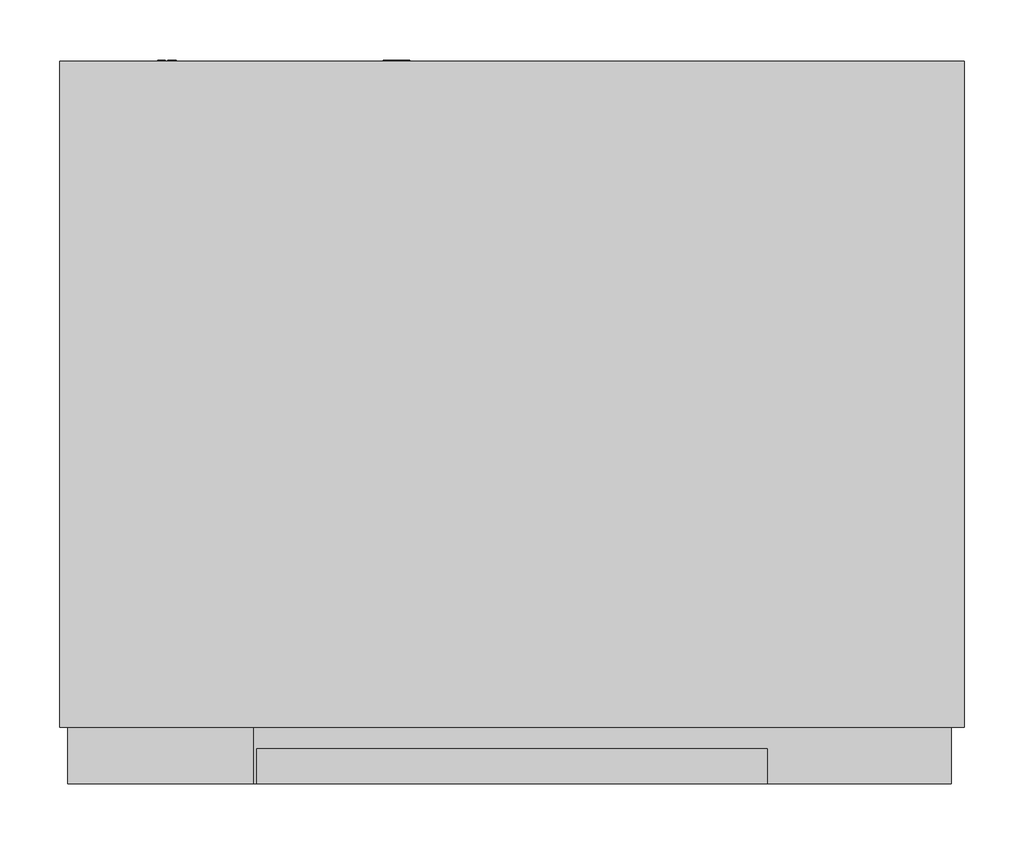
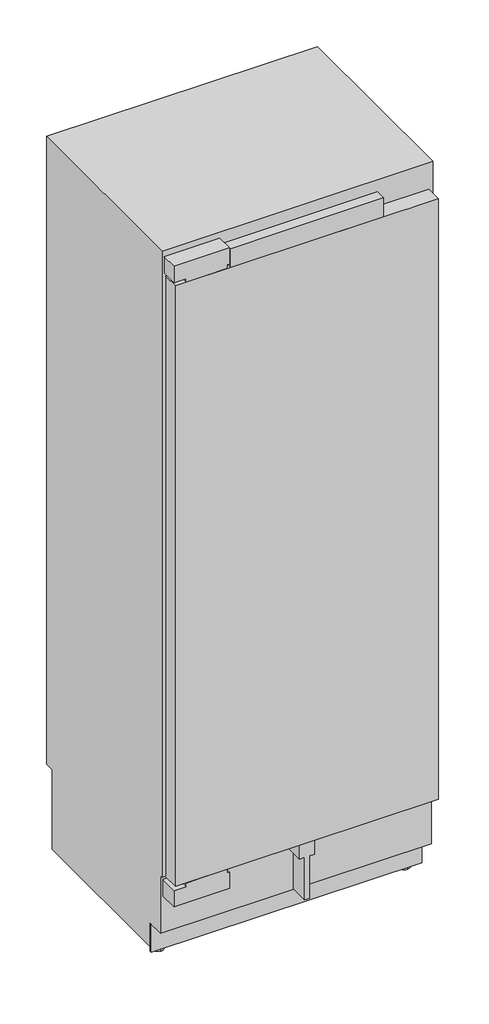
# Not in any storey: 1 proxy.
"""IFC4 building model written with IfcOpenShell, lengths in millimetres."""

import ifcopenshell
import ifcopenshell.guid

model = None  # the IFC model being written
_history = None  # IfcOwnerHistory: only IFC2X3 demands one
_inside = {}  # id of a spatial element -> (the spatial element, [elements in it])
_under = {}  # id of a project, library or spatial element -> (it, [spatial elements below it])
_declared = {}  # id of a project -> (the project, [libraries it declares])
_typed = {}  # id of a type object -> (the type object, [elements of that type])
_made_of = {}  # id of a material, layer set ... -> (it, [elements and type objects made of it])


def new_model(schema):
    """Start an empty IFC model of exactly this schema.

    Asked for "IFC4X3", IfcOpenShell would pick the latest addendum, in which some entities
    have other attributes; the version numbers below select the first issue.
    IFC2X3 requires an IfcOwnerHistory on every rooted entity: one is made here for all.
    """
    global model, _history
    if schema == "IFC4X3":
        model = ifcopenshell.file(schema_version=(4, 3, 0, 0))
    else:
        model = ifcopenshell.file(schema=schema)
    _inside.clear()
    _under.clear()
    _declared.clear()
    _typed.clear()
    _made_of.clear()
    _history = None
    if model.schema == "IFC2X3":
        org = make("IfcOrganization", Name="unknown")
        user = make(
            "IfcPersonAndOrganization",
            ThePerson=make("IfcPerson", FamilyName="unknown"),
            TheOrganization=org,
        )
        app = make(
            "IfcApplication",
            ApplicationDeveloper=org,
            Version="unknown",
            ApplicationFullName="unknown",
            ApplicationIdentifier="unknown",
        )
        _history = make(
            "IfcOwnerHistory",
            OwningUser=user,
            OwningApplication=app,
            ChangeAction="ADDED",
            CreationDate=0,
        )
    return model


def make(cls, **values):
    """One entity of the class cls with the attributes given. An attribute that is None is left unset."""
    return model.create_entity(
        cls, **{name: value for name, value in values.items() if value is not None}
    )


def rooted(cls, **values):
    """An entity with a GlobalId (a new one), such as an element, a storey or a relation."""
    return make(cls, GlobalId=ifcopenshell.guid.new(), OwnerHistory=_history, **values)


def si_unit(unit_type, name, prefix=None):
    """IfcSIUnit, for example si_unit("LENGTHUNIT", "METRE", prefix="MILLI")."""
    return make("IfcSIUnit", UnitType=unit_type, Prefix=prefix, Name=name)


def assignment(units):
    """IfcUnitAssignment: the units of a project."""
    return None if units is None else make("IfcUnitAssignment", Units=units)


def point(xyz):
    """IfcCartesianPoint."""
    return None if xyz is None else make("IfcCartesianPoint", Coordinates=xyz)


def direction(xyz):
    """IfcDirection."""
    return None if xyz is None else make("IfcDirection", DirectionRatios=xyz)


def frame(location, z_axis=None, x_axis=None):
    """IfcAxis2Placement3D, a coordinate frame: its origin and axes. An axis left out is left unset."""
    return make(
        "IfcAxis2Placement3D",
        Location=point(location),
        Axis=direction(z_axis),
        RefDirection=direction(x_axis),
    )


def frame_2d(location, x_axis=None):
    """IfcAxis2Placement2D, a coordinate frame in the plane: its origin and x axis."""
    return make(
        "IfcAxis2Placement2D", Location=point(location), RefDirection=direction(x_axis)
    )


def origin():
    """The frame at (0, 0, 0) with its axes left unset."""
    return frame((0.0, 0.0, 0.0))


def place(relative_to, where):
    """IfcLocalPlacement: puts the frame where relative to a parent placement (None: the world)."""
    return make(
        "IfcLocalPlacement", PlacementRelTo=relative_to, RelativePlacement=where
    )


def context(
    kind, dimensions, precision=None, world=None, true_north=None, identifier=None
):
    """IfcGeometricRepresentationContext, for example the 3D "Model" context."""
    return make(
        "IfcGeometricRepresentationContext",
        ContextIdentifier=identifier,
        ContextType=kind,
        CoordinateSpaceDimension=dimensions,
        Precision=precision,
        WorldCoordinateSystem=world,
        TrueNorth=true_north,
    )


def project(units=None, contexts=None):
    """IfcProject with its units and contexts."""
    return rooted(
        "IfcProject",
        Name="project",
        RepresentationContexts=contexts,
        UnitsInContext=assignment(units),
    )


def spatial(cls, under=None, at=None, **own):
    """A site, building, storey or space (cls), placed at a placement, below another one or the project."""
    s = rooted(cls, ObjectPlacement=at, **own)
    if under is not None:
        _under.setdefault(under.id(), (under, []))[1].append(s)
    return s


def polyline(points):
    """IfcPolyline through the points."""
    return make("IfcPolyline", Points=[point(p) for p in points])


def circle_curve(where, radius):
    """IfcCircle in the frame where."""
    return make("IfcCircle", Position=where, Radius=radius)


def trimmed(basis, trim1, trim2, sense, master):
    """IfcTrimmedCurve: the piece of a basis curve between two trims."""
    return make(
        "IfcTrimmedCurve",
        BasisCurve=basis,
        Trim1=trim1,
        Trim2=trim2,
        SenseAgreement=sense,
        MasterRepresentation=master,
    )


def segment(curve, same_sense, transition):
    """IfcCompositeCurveSegment."""
    return make(
        "IfcCompositeCurveSegment",
        Transition=transition,
        SameSense=same_sense,
        ParentCurve=curve,
    )


def composite_curve(segments, self_intersect=None):
    """IfcCompositeCurve: segments joined end to end."""
    return make("IfcCompositeCurve", Segments=segments, SelfIntersect=self_intersect)


def outline(outer, holes=None, kind="AREA"):
    """IfcArbitraryClosedProfileDef: a profile drawn as a closed curve; with holes, ...WithVoids."""
    if holes is None:
        return make("IfcArbitraryClosedProfileDef", ProfileType=kind, OuterCurve=outer)
    return make(
        "IfcArbitraryProfileDefWithVoids",
        ProfileType=kind,
        OuterCurve=outer,
        InnerCurves=holes,
    )


def extrude(swept, where, along, depth):
    """IfcExtrudedAreaSolid: the profile swept, set in the frame where, extruded along a direction by depth."""
    return make(
        "IfcExtrudedAreaSolid",
        SweptArea=swept,
        Position=where,
        ExtrudedDirection=direction(along),
        Depth=depth,
    )


def shape(context_of_items, identifier, shape_type, items):
    """IfcShapeRepresentation: the items that make up one representation, for example the "Body"."""
    return make(
        "IfcShapeRepresentation",
        ContextOfItems=context_of_items,
        RepresentationIdentifier=identifier,
        RepresentationType=shape_type,
        Items=items,
    )


def source(mapping_origin, context_of_items, identifier, shape_type, items):
    """IfcRepresentationMap: a shape defined once, which mapped items show again and again."""
    return make(
        "IfcRepresentationMap",
        MappingOrigin=mapping_origin,
        MappedRepresentation=shape(context_of_items, identifier, shape_type, items),
    )


def transform(
    local_origin,
    x_axis=None,
    y_axis=None,
    z_axis=None,
    scale=None,
    scale2=None,
    scale3=None,
    uniform=True,
):
    """IfcCartesianTransformationOperator3D, or its non-uniform kind. x_axis, y_axis, z_axis: its Axis1, 2, 3."""
    if uniform:
        return make(
            "IfcCartesianTransformationOperator3D",
            Axis1=direction(x_axis),
            Axis2=direction(y_axis),
            LocalOrigin=point(local_origin),
            Scale=scale,
            Axis3=direction(z_axis),
        )
    return make(
        "IfcCartesianTransformationOperator3DnonUniform",
        Axis1=direction(x_axis),
        Axis2=direction(y_axis),
        LocalOrigin=point(local_origin),
        Scale=scale,
        Axis3=direction(z_axis),
        Scale2=scale2,
        Scale3=scale3,
    )


def mapped(mapping_source, mapping_target):
    """IfcMappedItem: shows the shape of a source again, moved by a transform."""
    return make(
        "IfcMappedItem", MappingSource=mapping_source, MappingTarget=mapping_target
    )


def made_of(thing, what):
    """Note that an element or type object is made of a material, layer set ...; save() writes the relation."""
    if what is not None:
        _made_of.setdefault(what.id(), (what, []))[1].append(thing)
    return thing


def element(
    cls,
    number,
    at=None,
    inside=None,
    cuts=None,
    type_object=None,
    material=None,
    context=None,
    identifier="Body",
    shape_type=None,
    held_by="IfcProductDefinitionShape",
    body=None,
    shapes=None,
    **own,
):
    """One element of the class cls, such as IfcWall. Its Tag is "e" and its number.

    at: its placement. inside: the storey or other place that contains it. cuts: it is an
    opening in that element (IfcRelVoidsElement). A single representation is given by context,
    identifier, shape_type and body (its items); several are given by shapes. held_by: the class
    of the entity that holds the representations. save() writes the other relations.
    """
    e = rooted(cls, Tag="e%d" % number, ObjectPlacement=at, **own)
    if body is not None:
        shapes = [shape(context, identifier, shape_type, body)]
    if shapes is not None:
        e.Representation = make(held_by, Representations=shapes)
    if inside is not None:
        _inside.setdefault(inside.id(), (inside, []))[1].append(e)
    if cuts is not None:
        rooted(
            "IfcRelVoidsElement", RelatingBuildingElement=cuts, RelatedOpeningElement=e
        )
    if type_object is not None:
        _typed.setdefault(type_object.id(), (type_object, []))[1].append(e)
    return made_of(e, material)


def aggregate(whole, parts):
    """IfcRelAggregates: a whole, such as a stair, and the parts it consists of."""
    return rooted("IfcRelAggregates", RelatingObject=whole, RelatedObjects=parts)


def save(model, path):
    """Write the relations noted so far, then the file.

    IfcRelAggregates (storeys below a building ...), IfcRelContainedInSpatialStructure (elements
    in a storey), IfcRelDefinesByType, IfcRelAssociatesMaterial and IfcRelDeclares: one each for
    every whole, place, type object, material and project.
    """
    for whole, parts in _under.values():
        aggregate(whole, parts)
    for where, things in _inside.values():
        rooted(
            "IfcRelContainedInSpatialStructure",
            RelatedElements=things,
            RelatingStructure=where,
        )
    for kind, things in _typed.values():
        rooted("IfcRelDefinesByType", RelatedObjects=things, RelatingType=kind)
    for what, things in _made_of.values():
        rooted("IfcRelAssociatesMaterial", RelatedObjects=things, RelatingMaterial=what)
    for by, libraries in _declared.values():
        rooted("IfcRelDeclares", RelatingContext=by, RelatedDefinitions=libraries)
    model.write(path)


def plane_surface(at):
    """IfcPlane: the flat surface through the origin of the frame at, square to its z axis."""
    return make("IfcPlane", Position=at)


def cylinder_surface(at, radius):
    """IfcCylindricalSurface: all points at the distance radius from the z axis of the frame at."""
    return make("IfcCylindricalSurface", Position=at, Radius=radius)


def advanced_brep(points, edges, surfaces, faces):
    """IfcAdvancedBrep: a solid bounded by faces that lie on surfaces and meet in shared edges.

    An edge is (start, end): straight between two places in points (the first is 0);
    or (start, end, curve); or (start, end, curve, False) where it runs against its curve.
    A face is (place in surfaces, loops), or (place, loops, False) where it looks against
    its surface's normal. A loop lists edges by number (the first is 1), with a minus sign
    where the edge is run from its end to its start. The first loop is the outer one.
    """
    corners = [point(p) for p in points]
    vertices = [make("IfcVertexPoint", VertexGeometry=c) for c in corners]
    made = []
    for start, end, *more in edges:
        made.append(
            make(
                "IfcEdgeCurve",
                EdgeStart=vertices[start],
                EdgeEnd=vertices[end],
                EdgeGeometry=more[0] if more else make("IfcPolyline", Points=[corners[start], corners[end]]),
                SameSense=more[1] if len(more) > 1 else True,
            )
        )
    hull = []
    for where, loops, *sense in faces:
        bounds = []
        for j, loop in enumerate(loops):
            ring = [make("IfcOrientedEdge", EdgeElement=made[abs(k) - 1], Orientation=k > 0) for k in loop]
            bounds.append(
                make(
                    "IfcFaceOuterBound" if j == 0 else "IfcFaceBound",
                    Bound=make("IfcEdgeLoop", EdgeList=ring),
                    Orientation=True,
                )
            )
        hull.append(make("IfcAdvancedFace", Bounds=bounds, FaceSurface=surfaces[where], SameSense=sense[0] if sense else True))
    return make("IfcAdvancedBrep", Outer=make("IfcClosedShell", CfsFaces=hull))


def specialty_equipment_1c1f1675(model_context):
    return source(origin(), model_context, "Body", "SolidModel", [
        extrude(outline(polyline([(-367.0, 47.0), (367.0, 47.0), (367.0, 0.0), (-367.0, 0.0), (-367.0, 47.0)])), frame((0.0, 0.0, 265.0), z_axis=(0.0, 0.0, 1.0), x_axis=(1.0, 0.0, 0.0)), (0.0, 0.0, 1.0), 1771.0),
        extrude(outline(polyline([(-213.5, 29.0), (213.5, 29.0), (213.5, 0.0), (-213.5, 0.0), (-213.5, 29.0)])), frame((0.0, 0.0, 2036.0), z_axis=(0.0, 0.0, 1.0), x_axis=(1.0, 0.0, 0.0)), (0.0, 0.0, 1.0), 56.0),
        extrude(outline(polyline([(265.0, 21.0), (265.0, 0.0), (265.0, -21.0), (224.0, -21.0), (224.0, -6.5), (99.0, -6.5), (99.0, 0.0), (99.0, 6.5), (224.0, 6.5), (224.0, 21.0), (265.0, 21.0)])), frame((0.0, 0.0, 0.0), z_axis=(0.0, 1.0, 0.0), x_axis=(0.0, 0.0, 1.0)), (0.0, 0.0, 1.0), 54.0),
        extrude(outline(polyline([(519.0, 1998.0), (519.0, 1791.0), (450.0, 1791.0), (422.0, 1867.0), (201.7448904, 1867.0), (157.0, 1939.0), (87.0, 1949.0), (87.0, 1998.0), (519.0, 1998.0)])), frame((-332.0, 0.0, 0.0), z_axis=(1.0, 0.0, 0.0), x_axis=(0.0, 1.0, 0.0)), (0.0, 0.0, 1.0), 664.0),
        extrude(outline(polyline([(196.9886114, 1875.0), (195.809433, 1875.0), (158.6921935, 1934.4), (159.8713719, 1934.4), (196.9886114, 1875.0)])), frame((-69.0, 0.0, 0.0), z_axis=(1.0, 0.0, 0.0), x_axis=(0.0, 1.0, 0.0)), (0.0, 0.0, 1.0), 138.0),
        extrude(outline(polyline([(46.0510837, -95.101717), (37.4134902, -97.1745179), (46.0453554, -99.6868463), (46.0453554, -101.5601414), (37.4089549, -104.0799633), (46.0493903, -106.1581876), (46.0493903, -107.4649805), (36.0005458, -104.7156324), (36.0005458, -103.372208), (44.8261022, -100.6342221), (35.9987467, -98.0620509), (35.9987287, -96.5451466), (46.0510837, -93.800191), (46.0510837, -95.101717)])), frame((0.0, 604.0, 0.0), z_axis=(0.0, 1.0, 0.0), x_axis=(0.0, 0.0, 1.0)), (0.0, 0.0, 1.0), 1.0),
        extrude(outline(polyline([(46.0485238, -86.7401503), (41.1363122, -86.7401503), (46.0468162, -91.884602), (46.0468162, -93.6328316), (41.9156889, -89.3260313), (36.000035, -93.8032231), (36.000035, -92.2795519), (41.0742849, -88.4391666), (39.4525334, -86.7395503), (35.9999292, -86.7395503), (35.9999292, -85.4795491), (46.0485238, -85.4795491), (46.0485238, -86.7401503)])), frame((0.0, 604.0, 0.0), z_axis=(0.0, 1.0, 0.0), x_axis=(0.0, 0.0, 1.0)), (0.0, 0.0, 1.0), 1.0),
        extrude(outline(composite_curve([segment(trimmed(circle_curve(frame_2d((41.0, -96.0)), 7.5), [point((33.5, -96.0))], [point((48.5, -96.0))], False, "CARTESIAN"), True, "CONTINUOUS"), segment(trimmed(circle_curve(frame_2d((41.0, -96.0)), 7.5), [point((48.5, -96.0))], [point((33.5, -96.0))], False, "CARTESIAN"), True, "CONTINUOUS")], self_intersect=False)), frame((0.0, 577.0, 0.0), z_axis=(0.0, 1.0, 0.0), x_axis=(0.0, 0.0, 1.0)), (0.0, 0.0, 1.0), 27.0),
        extrude(outline(polyline([(2095.0, -371.5), (2047.0, -371.5), (2047.0, -337.5), (2036.5, -337.5), (2036.5, -222.5), (2047.0, -222.5), (2047.0, -216.5), (2095.0, -216.5), (2095.0, -371.5)])), frame((0.0, 0.0, 0.0), z_axis=(0.0, 1.0, 0.0), x_axis=(0.0, 0.0, 1.0)), (0.0, 0.0, 1.0), 47.0),
        extrude(outline(polyline([(254.0, -371.5), (206.0, -371.5), (206.0, -216.5), (254.0, -216.5), (254.0, -222.5), (264.0, -222.5), (264.0, -337.5), (254.0, -337.5), (254.0, -371.5)])), frame((0.0, 0.0, 0.0), z_axis=(0.0, 1.0, 0.0), x_axis=(0.0, 0.0, 1.0)), (0.0, 0.0, 1.0), 54.0),
        extrude(outline(polyline([(99.0373308, -287.7645771), (97.7615342, -287.7645771), (97.7615342, -281.8195541), (94.7968516, -281.8195541), (94.7968516, -287.469579), (93.5246295, -287.469579), (93.5246295, -281.8415693), (90.2570046, -281.8415693), (90.2570046, -287.9619689), (88.9546219, -287.9619689), (88.9546219, -280.5443524), (99.0373308, -280.5443524), (99.0373308, -287.7645771)])), frame((0.0, 604.0, 0.0), z_axis=(0.0, 1.0, 0.0), x_axis=(0.0, 0.0, 1.0)), (0.0, 0.0, 1.0), 1.0),
        extrude(outline(polyline([(99.0458, -291.0619704), (90.2663944, -291.0619704), (90.2663944, -296.1145879), (89.0134802, -296.1145879), (89.0134802, -289.8423809), (99.0458, -289.8423809), (99.0458, -291.0619704)])), frame((0.0, 604.0, 0.0), z_axis=(0.0, 1.0, 0.0), x_axis=(0.0, 0.0, 1.0)), (0.0, 0.0, 1.0), 1.0),
        extrude(outline(composite_curve([segment(trimmed(circle_curve(frame_2d((94.0, -288.0)), 7.5), [point((86.5, -288.0))], [point((101.5, -288.0))], False, "CARTESIAN"), True, "CONTINUOUS"), segment(trimmed(circle_curve(frame_2d((94.0, -288.0)), 7.5), [point((101.5, -288.0))], [point((86.5, -288.0))], False, "CARTESIAN"), True, "CONTINUOUS")], self_intersect=False)), frame((0.0, 577.0, 0.0), z_axis=(0.0, 1.0, 0.0), x_axis=(0.0, 0.0, 1.0)), (0.0, 0.0, 1.0), 27.0),
        extrude(outline(polyline([(-378.0, 104.0), (378.0, 104.0), (378.0, 99.0), (-378.0, 99.0), (-378.0, 104.0)])), frame((0.0, 0.0, 14.0), z_axis=(0.0, 0.0, 1.0), x_axis=(1.0, 0.0, 0.0)), (0.0, 0.0, 1.0), 83.0),
        advanced_brep(
        [(-344.0, 139.0, 0.0), (-344.0, 109.0, 0.0), (-344.0, 139.0, 7.0), (-344.0, 109.0, 7.0), (-344.0, 128.7, 7.0), (-344.0, 119.3, 7.0), (-344.0, 128.7, 28.0), (-344.0, 119.3, 28.0)],
        [
            (0, 1, circle_curve(frame((-344.0, 124.0, 0.0), z_axis=(0.0, 0.0, -1.0), x_axis=(1.0, 0.0, 0.0)), 15.0)),
            (1, 0, circle_curve(frame((-344.0, 124.0, 0.0), z_axis=(0.0, 0.0, -1.0), x_axis=(1.0, 0.0, 0.0)), 15.0)),
            (2, 3, circle_curve(frame((-344.0, 124.0, 7.0), z_axis=(0.0, 0.0, 1.0), x_axis=(1.0, 0.0, 0.0)), 15.0)),
            (3, 2, circle_curve(frame((-344.0, 124.0, 7.0), z_axis=(0.0, 0.0, 1.0), x_axis=(1.0, 0.0, 0.0)), 15.0)),
            (4, 5, circle_curve(frame((-344.0, 124.0, 7.0), z_axis=(0.0, 0.0, -1.0), x_axis=(0.0, -1.0, 0.0)), 4.7)),
            (5, 4, circle_curve(frame((-344.0, 124.0, 7.0), z_axis=(0.0, 0.0, -1.0), x_axis=(0.0, -1.0, 0.0)), 4.7)),
            (0, 2),
            (3, 1),
            (6, 7, circle_curve(frame((-344.0, 124.0, 28.0), z_axis=(0.0, 0.0, 1.0), x_axis=(0.0, -1.0, 0.0)), 4.7)),
            (7, 6, circle_curve(frame((-344.0, 124.0, 28.0), z_axis=(0.0, 0.0, 1.0), x_axis=(0.0, -1.0, 0.0)), 4.7)),
            (7, 5),
            (4, 6),
        ],
        [
            plane_surface(frame((-329.0, 124.0, 0.0), z_axis=(0.0, 0.0, -1.0), x_axis=(0.0, -1.0, 0.0))),
            plane_surface(frame((-329.0, 124.0, 7.0), z_axis=(0.0, 0.0, 1.0), x_axis=(0.0, 1.0, 0.0))),
            cylinder_surface(frame((-344.0, 124.0, 7.0), z_axis=(0.0, 0.0, -1.0), x_axis=(1.0, 0.0, 0.0)), 15.0),
            plane_surface(frame((-344.0, 119.3, 28.0), z_axis=(0.0, 0.0, 1.0), x_axis=(1.0, 0.0, 0.0))),
            cylinder_surface(frame((-344.0, 124.0, 28.0), z_axis=(0.0, 0.0, -1.0), x_axis=(0.0, -1.0, 0.0)), 4.7),
        ],
        [
            (0, [[1, 2]]),
            (1, [[3, 4], [5, 6]]),
            (2, [[-1, 7, -4, 8]]),
            (2, [[-2, -8, -3, -7]]),
            (3, [[9, 10]]),
            (4, [[-10, 11, -5, 12]]),
            (4, [[-9, -12, -6, -11]]),
        ],
    ),
        advanced_brep(
        [(344.0, 139.0, 0.0), (344.0, 109.0, 0.0), (344.0, 139.0, 7.0), (344.0, 109.0, 7.0), (344.0, 128.7, 7.0), (344.0, 119.3, 7.0), (344.0, 128.7, 28.0), (344.0, 119.3, 28.0)],
        [
            (0, 1, circle_curve(frame((344.0, 124.0, 0.0), z_axis=(0.0, 0.0, -1.0), x_axis=(1.0, 0.0, 0.0)), 15.0)),
            (1, 0, circle_curve(frame((344.0, 124.0, 0.0), z_axis=(0.0, 0.0, -1.0), x_axis=(1.0, 0.0, 0.0)), 15.0)),
            (2, 3, circle_curve(frame((344.0, 124.0, 7.0), z_axis=(0.0, 0.0, 1.0), x_axis=(1.0, 0.0, 0.0)), 15.0)),
            (3, 2, circle_curve(frame((344.0, 124.0, 7.0), z_axis=(0.0, 0.0, 1.0), x_axis=(1.0, 0.0, 0.0)), 15.0)),
            (4, 5, circle_curve(frame((344.0, 124.0, 7.0), z_axis=(0.0, 0.0, -1.0), x_axis=(0.0, -1.0, 0.0)), 4.7)),
            (5, 4, circle_curve(frame((344.0, 124.0, 7.0), z_axis=(0.0, 0.0, -1.0), x_axis=(0.0, -1.0, 0.0)), 4.7)),
            (0, 2),
            (3, 1),
            (6, 7, circle_curve(frame((344.0, 124.0, 28.0), z_axis=(0.0, 0.0, 1.0), x_axis=(0.0, -1.0, 0.0)), 4.7)),
            (7, 6, circle_curve(frame((344.0, 124.0, 28.0), z_axis=(0.0, 0.0, 1.0), x_axis=(0.0, -1.0, 0.0)), 4.7)),
            (7, 5),
            (4, 6),
        ],
        [
            plane_surface(frame((-329.0, 124.0, 0.0), z_axis=(0.0, 0.0, -1.0), x_axis=(0.0, -1.0, 0.0))),
            plane_surface(frame((-329.0, 124.0, 7.0), z_axis=(0.0, 0.0, 1.0), x_axis=(0.0, 1.0, 0.0))),
            cylinder_surface(frame((344.0, 124.0, 7.0), z_axis=(0.0, 0.0, -1.0), x_axis=(1.0, 0.0, 0.0)), 15.0),
            plane_surface(frame((-344.0, 119.3, 28.0), z_axis=(0.0, 0.0, 1.0), x_axis=(1.0, 0.0, 0.0))),
            cylinder_surface(frame((344.0, 124.0, 28.0), z_axis=(0.0, 0.0, -1.0), x_axis=(0.0, -1.0, 0.0)), 4.7),
        ],
        [
            (0, [[1, 2]]),
            (1, [[3, 4], [5, 6]]),
            (2, [[-1, 7, -4, 8]]),
            (2, [[-2, -8, -3, -7]]),
            (3, [[9, 10]]),
            (4, [[-10, 11, -5, 12]]),
            (4, [[-9, -12, -6, -11]]),
        ],
    ),
        advanced_brep(
        [(378.0, 47.0, 2114.0), (378.0, 47.0, 267.0), (378.0, 54.0, 267.0), (378.0, 54.0, 97.0), (378.0, 104.0, 97.0), (378.0, 104.0, 28.0), (378.0, 577.0, 28.0), (378.0, 577.0, 263.0), (378.0, 604.0, 263.0), (378.0, 604.0, 2114.0), (-378.0, 47.0, 2114.0), (-378.0, 604.0, 2114.0), (-378.0, 604.0, 263.0), (-378.0, 577.0, 263.0), (-378.0, 577.0, 28.0), (-378.0, 104.0, 28.0), (-378.0, 104.0, 97.0), (-378.0, 54.0, 97.0), (-378.0, 54.0, 267.0), (-378.0, 47.0, 267.0), (318.0, 577.0, 28.0), (318.0, 577.0, 14.0), (-318.0, 577.0, 14.0), (-318.0, 577.0, 28.0), (318.0, 104.0, 14.0), (-318.0, 104.0, 14.0), (-318.0, 104.0, 28.0), (318.0, 104.0, 28.0), (332.0, 47.0, 1998.0), (332.0, 47.0, 343.0), (-332.0, 47.0, 343.0), (-332.0, 47.0, 1998.0), (332.0, 519.0, 1998.0), (-332.0, 519.0, 1998.0), (-332.0, 519.0, 343.0), (332.0, 519.0, 343.0), (-336.5, 202.8193473, 28.0), (-355.5, 202.8193473, 28.0), (-355.5, 153.1806527, 28.0), (-336.5, 153.1806527, 28.0), (-356.0, 525.8193473, 28.0), (-356.0, 476.1806527, 28.0), (-340.0, 476.1806527, 28.0), (-340.0, 525.8193473, 28.0), (355.5, 153.1806527, 28.0), (355.5, 202.8193473, 28.0), (336.5, 202.8193473, 28.0), (336.5, 153.1806527, 28.0), (340.0, 525.8193473, 28.0), (340.0, 476.1806527, 28.0), (356.0, 476.1806527, 28.0), (356.0, 525.8193473, 28.0), (-336.5, 203.0, 25.0), (-336.5, 153.0, 25.0), (-355.5, 153.0, 25.0), (-355.5, 203.0, 25.0), (-336.5, 178.0, 25.0), (-355.5, 178.0, 25.0), (355.5, 178.0, 25.0), (355.5, 153.0, 25.0), (355.5, 203.0, 25.0), (336.5, 203.0, 25.0), (336.5, 153.0, 25.0), (336.5, 178.0, 25.0), (-356.0, 526.0, 25.0), (-356.0, 476.0, 25.0), (-356.0, 501.0, 25.0), (-340.0, 526.0, 25.0), (-340.0, 476.0, 25.0), (-340.0, 501.0, 25.0), (340.0, 526.0, 25.0), (340.0, 476.0, 25.0), (340.0, 501.0, 25.0), (356.0, 526.0, 25.0), (356.0, 476.0, 25.0), (356.0, 501.0, 25.0)],
        [
            (0, 1),
            (1, 2),
            (2, 3),
            (3, 4),
            (4, 5),
            (5, 6),
            (6, 7),
            (7, 8),
            (8, 9),
            (9, 0),
            (10, 11),
            (11, 12),
            (12, 13),
            (13, 14),
            (14, 15),
            (15, 16),
            (16, 17),
            (17, 18),
            (18, 19),
            (19, 10),
            (9, 11),
            (10, 0),
            (8, 12),
            (7, 13),
            (6, 20),
            (20, 21),
            (21, 22),
            (22, 23),
            (23, 14),
            (21, 24),
            (24, 25),
            (25, 22),
            (4, 16),
            (15, 26),
            (26, 25),
            (24, 27),
            (27, 5),
            (3, 17),
            (2, 18),
            (1, 19),
            (28, 29),
            (29, 30),
            (30, 31),
            (31, 28),
            (32, 33),
            (33, 34),
            (34, 35),
            (35, 32),
            (35, 29),
            (28, 32),
            (34, 30),
            (33, 31),
            (23, 26),
            (36, 37),
            (37, 38),
            (38, 39),
            (39, 36),
            (40, 41),
            (41, 42),
            (42, 43),
            (43, 40),
            (27, 20),
            (44, 45),
            (45, 46),
            (46, 47),
            (47, 44),
            (48, 49),
            (49, 50),
            (50, 51),
            (51, 48),
            (52, 53, circle_curve(frame((-336.5, 178.0, 25.0), z_axis=(-1.0, 0.0, 0.0), x_axis=(0.0, -1.0, 0.0)), 25.0)),
            (53, 54),
            (54, 55, circle_curve(frame((-355.5, 178.0, 25.0), z_axis=(1.0, 0.0, 0.0), x_axis=(0.0, -1.0, 0.0)), 25.0)),
            (55, 52),
            (53, 39, circle_curve(frame((-336.5, 178.0, 25.0), z_axis=(-1.0, 0.0, 0.0), x_axis=(0.0, -1.0, 0.0)), 25.0)),
            (38, 54, circle_curve(frame((-355.5, 178.0, 25.0), z_axis=(1.0, 0.0, 0.0), x_axis=(0.0, -1.0, 0.0)), 25.0)),
            (55, 37, circle_curve(frame((-355.5, 178.0, 25.0), z_axis=(1.0, 0.0, 0.0), x_axis=(0.0, -1.0, 0.0)), 25.0)),
            (36, 52, circle_curve(frame((-336.5, 178.0, 25.0), z_axis=(-1.0, 0.0, 0.0), x_axis=(0.0, -1.0, 0.0)), 25.0)),
            (52, 56),
            (56, 53),
            (54, 57),
            (57, 55),
            (58, 59),
            (59, 60, circle_curve(frame((355.5, 178.0, 25.0), z_axis=(1.0, 0.0, 0.0), x_axis=(0.0, -1.0, 0.0)), 25.0)),
            (60, 58),
            (60, 45, circle_curve(frame((355.5, 178.0, 25.0), z_axis=(1.0, 0.0, 0.0), x_axis=(0.0, -1.0, 0.0)), 25.0)),
            (44, 59, circle_curve(frame((355.5, 178.0, 25.0), z_axis=(1.0, 0.0, 0.0), x_axis=(0.0, -1.0, 0.0)), 25.0)),
            (61, 62, circle_curve(frame((336.5, 178.0, 25.0), z_axis=(-1.0, 0.0, 0.0), x_axis=(0.0, -1.0, 0.0)), 25.0)),
            (62, 63),
            (63, 61),
            (62, 47, circle_curve(frame((336.5, 178.0, 25.0), z_axis=(-1.0, 0.0, 0.0), x_axis=(0.0, -1.0, 0.0)), 25.0)),
            (46, 61, circle_curve(frame((336.5, 178.0, 25.0), z_axis=(-1.0, 0.0, 0.0), x_axis=(0.0, -1.0, 0.0)), 25.0)),
            (64, 65, circle_curve(frame((-356.0, 501.0, 25.0), z_axis=(-1.0, 0.0, 0.0), x_axis=(0.0, -1.0, 0.0)), 25.0)),
            (65, 66),
            (66, 64),
            (65, 41, circle_curve(frame((-356.0, 501.0, 25.0), z_axis=(-1.0, 0.0, 0.0), x_axis=(0.0, -1.0, 0.0)), 25.0)),
            (40, 64, circle_curve(frame((-356.0, 501.0, 25.0), z_axis=(-1.0, 0.0, 0.0), x_axis=(0.0, -1.0, 0.0)), 25.0)),
            (64, 67),
            (67, 68, circle_curve(frame((-340.0, 501.0, 25.0), z_axis=(-1.0, 0.0, 0.0), x_axis=(0.0, -1.0, 0.0)), 25.0)),
            (68, 65),
            (43, 67, circle_curve(frame((-340.0, 501.0, 25.0), z_axis=(-1.0, 0.0, 0.0), x_axis=(0.0, -1.0, 0.0)), 25.0)),
            (68, 42, circle_curve(frame((-340.0, 501.0, 25.0), z_axis=(-1.0, 0.0, 0.0), x_axis=(0.0, -1.0, 0.0)), 25.0)),
            (67, 69),
            (69, 68),
            (70, 71, circle_curve(frame((340.0, 501.0, 25.0), z_axis=(-1.0, 0.0, 0.0), x_axis=(0.0, -1.0, 0.0)), 25.0)),
            (71, 72),
            (72, 70),
            (71, 49, circle_curve(frame((340.0, 501.0, 25.0), z_axis=(-1.0, 0.0, 0.0), x_axis=(0.0, -1.0, 0.0)), 25.0)),
            (48, 70, circle_curve(frame((340.0, 501.0, 25.0), z_axis=(-1.0, 0.0, 0.0), x_axis=(0.0, -1.0, 0.0)), 25.0)),
            (70, 73),
            (73, 74, circle_curve(frame((356.0, 501.0, 25.0), z_axis=(-1.0, 0.0, 0.0), x_axis=(0.0, -1.0, 0.0)), 25.0)),
            (74, 71),
            (51, 73, circle_curve(frame((356.0, 501.0, 25.0), z_axis=(-1.0, 0.0, 0.0), x_axis=(0.0, -1.0, 0.0)), 25.0)),
            (74, 50, circle_curve(frame((356.0, 501.0, 25.0), z_axis=(-1.0, 0.0, 0.0), x_axis=(0.0, -1.0, 0.0)), 25.0)),
            (73, 75),
            (75, 74),
            (59, 62),
            (61, 60),
        ],
        [
            plane_surface(frame((378.0, 604.0, 2114.0), z_axis=(1.0, 0.0, 0.0), x_axis=(0.0, -1.0, 0.0))),
            plane_surface(frame((-378.0, 604.0, 2114.0), z_axis=(-1.0, 0.0, 0.0), x_axis=(0.0, 1.0, 0.0))),
            plane_surface(frame((-378.0, 47.0, 2114.0), z_axis=(0.0, 0.0, 1.0), x_axis=(1.0, 0.0, 0.0))),
            plane_surface(frame((-378.0, 604.0, 2114.0), z_axis=(0.0, 1.0, 0.0), x_axis=(1.0, 0.0, 0.0))),
            plane_surface(frame((-378.0, 604.0, 263.0), z_axis=(0.0, 0.0, -1.0), x_axis=(1.0, 0.0, 0.0))),
            plane_surface(frame((-378.0, 577.0, 263.0), z_axis=(0.0, 1.0, 0.0), x_axis=(1.0, 0.0, 0.0))),
            plane_surface(frame((-378.0, 577.0, 14.0), z_axis=(0.0, 0.0, -1.0), x_axis=(1.0, 0.0, 0.0))),
            plane_surface(frame((-378.0, 104.0, 14.0), z_axis=(0.0, -1.0, 0.0), x_axis=(1.0, 0.0, 0.0))),
            plane_surface(frame((-378.0, 104.0, 97.0), z_axis=(0.0, 0.0, -1.0), x_axis=(1.0, 0.0, 0.0))),
            plane_surface(frame((-378.0, 54.0, 97.0), z_axis=(0.0, -1.0, 0.0), x_axis=(1.0, 0.0, 0.0))),
            plane_surface(frame((-378.0, 54.0, 267.0), z_axis=(0.0, 0.0, -1.0), x_axis=(1.0, 0.0, 0.0))),
            plane_surface(frame((-378.0, 47.0, 267.0), z_axis=(0.0, -1.0, 0.0), x_axis=(1.0, 0.0, 0.0))),
            plane_surface(frame((332.0, 519.0, 1998.0), z_axis=(0.0, -1.0, 0.0), x_axis=(0.0, 0.0, -1.0))),
            plane_surface(frame((332.0, 519.0, 1998.0), z_axis=(-1.0, 0.0, 0.0), x_axis=(0.0, -1.0, 0.0))),
            plane_surface(frame((332.0, 519.0, 343.0), z_axis=(0.0, 0.0, 1.0), x_axis=(0.0, -1.0, 0.0))),
            plane_surface(frame((-332.0, 519.0, 343.0), z_axis=(1.0, 0.0, 0.0), x_axis=(0.0, -1.0, 0.0))),
            plane_surface(frame((-332.0, 519.0, 1998.0), z_axis=(0.0, 0.0, -1.0), x_axis=(0.0, -1.0, 0.0))),
            plane_surface(frame((-378.0, 604.0, 28.0), z_axis=(0.0, 0.0, -1.0), x_axis=(-1.0, 0.0, 0.0))),
            plane_surface(frame((-318.0, 104.0, 28.0), z_axis=(-1.0, 0.0, 0.0), x_axis=(0.0, 0.0, -1.0))),
            plane_surface(frame((318.0, 604.0, 28.0), z_axis=(1.0, 0.0, 0.0), x_axis=(0.0, 0.0, -1.0))),
            cylinder_surface(frame((-470.6988927, 178.0, 25.0), z_axis=(1.0, 0.0, 0.0), x_axis=(0.0, -1.0, 0.0)), 25.0),
            plane_surface(frame((-336.5, 178.0, 25.0), z_axis=(1.0, 0.0, 0.0), x_axis=(0.0, -1.0, 0.0))),
            plane_surface(frame((-355.5, 178.0, 25.0), z_axis=(-1.0, 0.0, 0.0), x_axis=(0.0, -1.0, 0.0))),
            plane_surface(frame((355.5, 178.0, 25.0), z_axis=(1.0, 0.0, 0.0), x_axis=(0.0, -1.0, 0.0))),
            plane_surface(frame((336.5, 178.0, 25.0), z_axis=(-1.0, 0.0, 0.0), x_axis=(0.0, -1.0, 0.0))),
            plane_surface(frame((-356.0, 501.0, 25.0), z_axis=(-1.0, 0.0, 0.0), x_axis=(0.0, -1.0, 0.0))),
            cylinder_surface(frame((-470.6988927, 501.0, 25.0), z_axis=(1.0, 0.0, 0.0), x_axis=(0.0, -1.0, 0.0)), 25.0),
            plane_surface(frame((-340.0, 501.0, 25.0), z_axis=(1.0, 0.0, 0.0), x_axis=(0.0, -1.0, 0.0))),
            plane_surface(frame((340.0, 501.0, 25.0), z_axis=(-1.0, 0.0, 0.0), x_axis=(0.0, -1.0, 0.0))),
            plane_surface(frame((356.0, 501.0, 25.0), z_axis=(1.0, 0.0, 0.0), x_axis=(0.0, -1.0, 0.0))),
        ],
        [
            (0, [[1, 2, 3, 4, 5, 6, 7, 8, 9, 10]]),
            (1, [[11, 12, 13, 14, 15, 16, 17, 18, 19, 20]]),
            (2, [[-10, 21, -11, 22]]),
            (3, [[-9, 23, -12, -21]]),
            (4, [[-8, 24, -13, -23]]),
            (5, [[-24, -7, 25, 26, 27, 28, 29, -14]]),
            (6, [[-27, 30, 31, 32]]),
            (7, [[33, -16, 34, 35, -31, 36, 37, -5]]),
            (8, [[-4, 38, -17, -33]]),
            (9, [[-3, 39, -18, -38]]),
            (10, [[-2, 40, -19, -39]]),
            (11, [[-1, -22, -20, -40], [41, 42, 43, 44]]),
            (12, [[45, 46, 47, 48]]),
            (13, [[-48, 49, -41, 50]]),
            (14, [[-47, 51, -42, -49]]),
            (15, [[-46, 52, -43, -51]]),
            (16, [[-45, -50, -44, -52]]),
            (17, [[53, -34, -15, -29], [54, 55, 56, 57], [58, 59, 60, 61]]),
            (17, [[62, -25, -6, -37], [63, 64, 65, 66], [67, 68, 69, 70]]),
            (18, [[-53, -28, -32, -35]]),
            (19, [[-62, -36, -30, -26]]),
            (20, [[71, 72, 73, 74]]),
            (20, [[-72, 75, -56, 76]]),
            (20, [[-74, 77, -54, 78]]),
            (21, [[-71, 79, 80]]),
            (21, [[-80, -79, -78, -57, -75]]),
            (22, [[-73, 81, 82]]),
            (22, [[-81, -76, -55, -77, -82]]),
            (23, [[83, 84, 85]]),
            (23, [[-83, -85, 86, -63, 87]]),
            (24, [[88, 89, 90]]),
            (24, [[-89, 91, -65, 92, -90]]),
            (25, [[93, 94, 95]]),
            (25, [[-94, 96, -58, 97, -95]]),
            (26, [[-93, 98, 99, 100]]),
            (26, [[-98, -97, -61, 101]]),
            (26, [[-100, 102, -59, -96]]),
            (27, [[-99, 103, 104]]),
            (27, [[-104, -103, -101, -60, -102]]),
            (28, [[105, 106, 107]]),
            (28, [[-106, 108, -67, 109, -107]]),
            (26, [[-105, 110, 111, 112]]),
            (26, [[-110, -109, -70, 113]]),
            (26, [[-112, 114, -68, -108]]),
            (29, [[-111, 115, 116]]),
            (29, [[-116, -115, -113, -69, -114]]),
            (20, [[-84, 117, -88, 118]]),
            (20, [[-117, -87, -66, -91]]),
            (20, [[-118, -92, -64, -86]]),
        ],
    ),
    ])


model = new_model("IFC4")

# Units and contexts
model_context = context("Model", 3, world=origin())
ifc_project = project(units=[si_unit("LENGTHUNIT", "METRE", prefix="MILLI")], contexts=[model_context])

# Site, building
site = spatial("IfcSite", under=ifc_project)
building = spatial("IfcBuilding", under=site)

# Proxy
placement = place(None, origin())
specialty_equipment_shape = specialty_equipment_1c1f1675(model_context)
element("IfcBuildingElementProxy", 1, Name="11262250_CN_F2811VI : 37281101_CN_11262250_F2811VI", ObjectType="11262250_CN_F2811VI : 37281101_CN_11262250_F2811VI", at=placement, inside=building, context=model_context, shape_type="MappedRepresentation", body=[
    mapped(specialty_equipment_shape, transform((0.0, 0.0, 0.0), x_axis=(1.0, 0.0, 0.0), y_axis=(0.0, 1.0, 0.0), z_axis=(0.0, 0.0, 1.0))),
])

save(model, "model.ifc")
